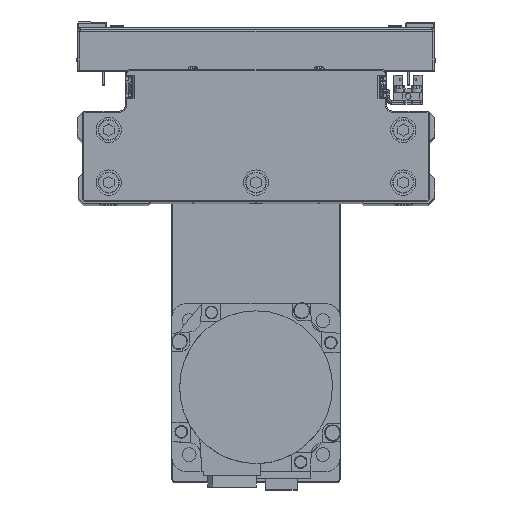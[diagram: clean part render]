
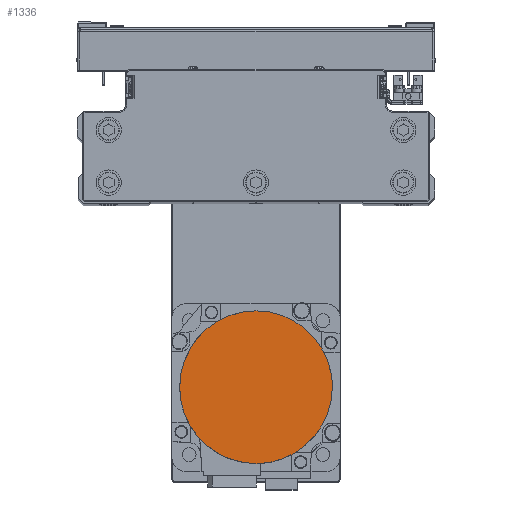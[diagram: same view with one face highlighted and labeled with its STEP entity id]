
A CAD part, top view. The second image highlights one B-rep face of the part: STEP entity #1336.
In plain terms, the highlighted planar face has unit normal (0, 0, 1) as drawn and (0, 0, -1) by its records, which use the part's own axes.
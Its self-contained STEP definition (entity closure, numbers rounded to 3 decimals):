
#295 = CARTESIAN_POINT ( 'NONE',  ( -2.376, 36.3, -122.2 ) ) ;
#526 = CARTESIAN_POINT ( 'NONE',  ( -35.139, 9.412, -122.2 ) ) ;
#904 = ORIENTED_EDGE ( 'NONE', *, *, #9192, .F. ) ;
#1336 = ADVANCED_FACE ( 'NONE', ( #43032 ), #12400, .F. ) ;
#2327 = CARTESIAN_POINT ( 'NONE',  ( -23.988, -27.348, -122.2 ) ) ;
#3876 = CARTESIAN_POINT ( 'NONE',  ( -31.502, 18.192, -122.2 ) ) ;
#4408 = EDGE_CURVE ( 'NONE', #17331, #14690, #24686, .T. ) ;
#5410 = AXIS2_PLACEMENT_3D ( 'NONE', #14608, #28261, #41895 ) ;
#5602 = ORIENTED_EDGE ( 'NONE', *, *, #36394, .F. ) ;
#5676 = CARTESIAN_POINT ( 'NONE',  ( -31.502, -18.192, -122.2 ) ) ;
#7219 = B_SPLINE_CURVE_WITH_KNOTS ( 'NONE', 3,
 ( #30919, #295, #13927, #27583, #41223, #10588, #24221, #37841, #7221, #20869, #34495, #3876, #17499, #31155, #526, #14155, #27805, #41441 ),
 .UNSPECIFIED., .F., .F.,
 ( 4, 2, 2, 2, 2, 2, 2, 2, 4 ),
 ( 0., 0.125, 0.25, 0.375, 0.5, 0.625, 0.75, 0.875, 1. ),
 .UNSPECIFIED. ) ;
#7221 = CARTESIAN_POINT ( 'NONE',  ( -23.988, 27.348, -122.2 ) ) ;
#7800 = AXIS2_PLACEMENT_3D ( 'NONE', #28343, #41967, #11338 ) ;
#9039 = CARTESIAN_POINT ( 'NONE',  ( -35.139, -9.412, -122.2 ) ) ;
#9055 = DIRECTION ( 'NONE',  ( 1., 0., 0. ) ) ;
#9192 = EDGE_CURVE ( 'NONE', #26518, #27281, #30636, .T. ) ;
#9255 = CARTESIAN_POINT ( 'NONE',  ( -2.376, -36.3, -122.2 ) ) ;
#10588 = CARTESIAN_POINT ( 'NONE',  ( -16.086, 32.628, -122.2 ) ) ;
#11338 = DIRECTION ( 'NONE',  ( -1., 0., 0. ) ) ;
#12383 = CARTESIAN_POINT ( 'NONE',  ( -36.3, 0., -122.2 ) ) ;
#12400 = PLANE ( 'NONE',  #25043 ) ;
#12609 = CARTESIAN_POINT ( 'NONE',  ( -11.696, -34.446, -122.2 ) ) ;
#13927 = CARTESIAN_POINT ( 'NONE',  ( -4.752, 36.066, -122.2 ) ) ;
#14155 = CARTESIAN_POINT ( 'NONE',  ( -36.066, 4.752, -122.2 ) ) ;
#14608 = CARTESIAN_POINT ( 'NONE',  ( 0., 0., -122.2 ) ) ;
#14690 = VERTEX_POINT ( 'NONE', #14776 ) ;
#14776 = CARTESIAN_POINT ( 'NONE',  ( 0., 36.3, -122.2 ) ) ;
#15953 = CARTESIAN_POINT ( 'NONE',  ( -22.143, -28.862, -122.2 ) ) ;
#17331 = VERTEX_POINT ( 'NONE', #38428 ) ;
#17499 = CARTESIAN_POINT ( 'NONE',  ( -32.628, 16.086, -122.2 ) ) ;
#19314 = CARTESIAN_POINT ( 'NONE',  ( -28.862, -22.143, -122.2 ) ) ;
#20444 = CARTESIAN_POINT ( 'NONE',  ( -36.3, 0., -122.2 ) ) ;
#20869 = CARTESIAN_POINT ( 'NONE',  ( -27.348, 23.988, -122.2 ) ) ;
#21368 = CIRCLE ( 'NONE', #7800, 36.3 ) ;
#22678 = CARTESIAN_POINT ( 'NONE',  ( -34.446, -11.696, -122.2 ) ) ;
#22903 = CARTESIAN_POINT ( 'NONE',  ( 0., -36.3, -122.2 ) ) ;
#24221 = CARTESIAN_POINT ( 'NONE',  ( -18.192, 31.502, -122.2 ) ) ;
#24686 = CIRCLE ( 'NONE', #5410, 36.3 ) ;
#25043 = AXIS2_PLACEMENT_3D ( 'NONE', #26048, #39663, #9055 ) ;
#26032 = CARTESIAN_POINT ( 'NONE',  ( -36.3, -2.376, -122.2 ) ) ;
#26048 = CARTESIAN_POINT ( 'NONE',  ( 0., 0., -122.2 ) ) ;
#26259 = CARTESIAN_POINT ( 'NONE',  ( -9.412, -35.139, -122.2 ) ) ;
#26518 = VERTEX_POINT ( 'NONE', #20444 ) ;
#27281 = VERTEX_POINT ( 'NONE', #40854 ) ;
#27583 = CARTESIAN_POINT ( 'NONE',  ( -9.412, 35.139, -122.2 ) ) ;
#27805 = CARTESIAN_POINT ( 'NONE',  ( -36.3, 2.376, -122.2 ) ) ;
#28261 = DIRECTION ( 'NONE',  ( 0., 0., 1. ) ) ;
#28343 = CARTESIAN_POINT ( 'NONE',  ( 0., 0., -122.2 ) ) ;
#29599 = CARTESIAN_POINT ( 'NONE',  ( -18.192, -31.502, -122.2 ) ) ;
#30003 = ORIENTED_EDGE ( 'NONE', *, *, #4408, .F. ) ;
#30636 = B_SPLINE_CURVE_WITH_KNOTS ( 'NONE', 3,
 ( #12383, #26032, #39645, #9039, #22678, #36291, #5676, #19314, #32947, #2327, #15953, #29599, #43227, #12609, #26259, #39867, #9255, #22903 ),
 .UNSPECIFIED., .F., .F.,
 ( 4, 2, 2, 2, 2, 2, 2, 2, 4 ),
 ( 0., 0.125, 0.25, 0.375, 0.5, 0.625, 0.75, 0.875, 1. ),
 .UNSPECIFIED. ) ;
#30919 = CARTESIAN_POINT ( 'NONE',  ( 0., 36.3, -122.2 ) ) ;
#31155 = CARTESIAN_POINT ( 'NONE',  ( -34.446, 11.696, -122.2 ) ) ;
#32947 = CARTESIAN_POINT ( 'NONE',  ( -27.348, -23.988, -122.2 ) ) ;
#34495 = CARTESIAN_POINT ( 'NONE',  ( -28.862, 22.143, -122.2 ) ) ;
#35558 = EDGE_LOOP ( 'NONE', ( #5602, #904, #38710, #30003 ) ) ;
#36291 = CARTESIAN_POINT ( 'NONE',  ( -32.628, -16.086, -122.2 ) ) ;
#36394 = EDGE_CURVE ( 'NONE', #27281, #17331, #21368, .T. ) ;
#37841 = CARTESIAN_POINT ( 'NONE',  ( -22.143, 28.862, -122.2 ) ) ;
#38428 = CARTESIAN_POINT ( 'NONE',  ( 36.3, 0., -122.2 ) ) ;
#38710 = ORIENTED_EDGE ( 'NONE', *, *, #43834, .F. ) ;
#39645 = CARTESIAN_POINT ( 'NONE',  ( -36.066, -4.752, -122.2 ) ) ;
#39663 = DIRECTION ( 'NONE',  ( 0., 0., 1. ) ) ;
#39867 = CARTESIAN_POINT ( 'NONE',  ( -4.752, -36.066, -122.2 ) ) ;
#40854 = CARTESIAN_POINT ( 'NONE',  ( 0., -36.3, -122.2 ) ) ;
#41223 = CARTESIAN_POINT ( 'NONE',  ( -11.696, 34.446, -122.2 ) ) ;
#41441 = CARTESIAN_POINT ( 'NONE',  ( -36.3, 0., -122.2 ) ) ;
#41895 = DIRECTION ( 'NONE',  ( -1., 0., 0. ) ) ;
#41967 = DIRECTION ( 'NONE',  ( 0., 0., 1. ) ) ;
#43032 = FACE_OUTER_BOUND ( 'NONE', #35558, .T. ) ;
#43227 = CARTESIAN_POINT ( 'NONE',  ( -16.086, -32.628, -122.2 ) ) ;
#43834 = EDGE_CURVE ( 'NONE', #14690, #26518, #7219, .T. ) ;
